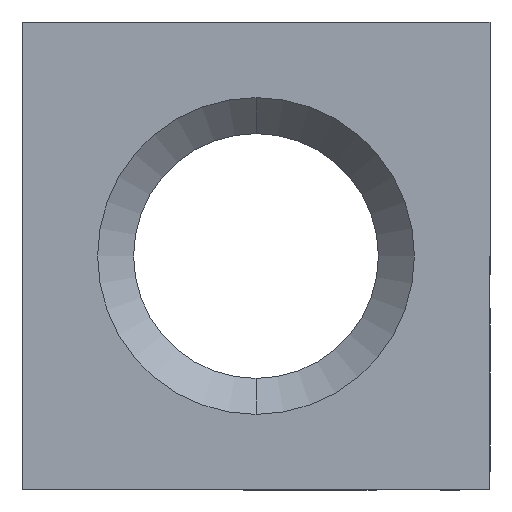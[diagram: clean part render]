
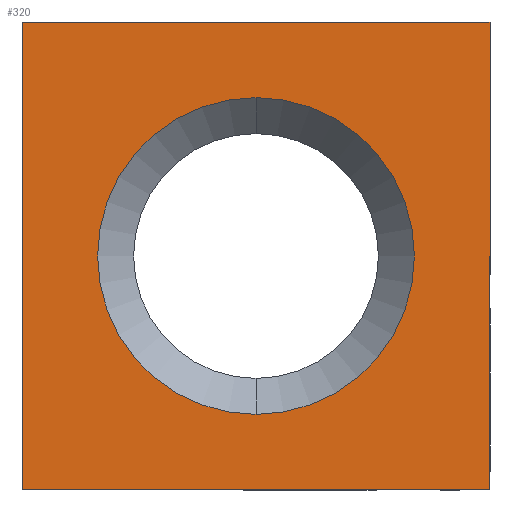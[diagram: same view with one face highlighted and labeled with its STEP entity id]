
A CAD part, front view. The second image highlights one B-rep face of the part: STEP entity #320.
In plain terms, the highlighted planar face has unit normal (0, -1, 0).
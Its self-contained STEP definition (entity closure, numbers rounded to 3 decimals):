
#6 = CARTESIAN_POINT ( 'NONE',  ( -6.5, 0., -6.5 ) ) ;
#15 = FACE_BOUND ( 'NONE', #437, .T. ) ;
#22 = DIRECTION ( 'NONE',  ( 1., 0., 0. ) ) ;
#29 = AXIS2_PLACEMENT_3D ( 'NONE', #561, #210, #203 ) ;
#33 = EDGE_CURVE ( 'NONE', #458, #522, #369, .T. ) ;
#47 = DIRECTION ( 'NONE',  ( 0., 0., -1. ) ) ;
#55 = CARTESIAN_POINT ( 'NONE',  ( -6.5, 0., 6.5 ) ) ;
#58 = AXIS2_PLACEMENT_3D ( 'NONE', #219, #269, #127 ) ;
#67 = VERTEX_POINT ( 'NONE', #6 ) ;
#73 = EDGE_CURVE ( 'NONE', #67, #131, #354, .T. ) ;
#74 = CARTESIAN_POINT ( 'NONE',  ( 6.5, 0., -6.5 ) ) ;
#87 = EDGE_CURVE ( 'NONE', #195, #67, #166, .T. ) ;
#89 = ORIENTED_EDGE ( 'NONE', *, *, #87, .F. ) ;
#99 = CARTESIAN_POINT ( 'NONE',  ( -6.5, 0., 6.5 ) ) ;
#101 = CARTESIAN_POINT ( 'NONE',  ( 0., 0., 4.4 ) ) ;
#116 = EDGE_CURVE ( 'NONE', #131, #403, #184, .T. ) ;
#121 = ORIENTED_EDGE ( 'NONE', *, *, #116, .F. ) ;
#122 = CARTESIAN_POINT ( 'NONE',  ( 6.5, 0., 6.5 ) ) ;
#127 = DIRECTION ( 'NONE',  ( 0., 0., -1. ) ) ;
#131 = VERTEX_POINT ( 'NONE', #492 ) ;
#156 = VECTOR ( 'NONE', #537, 1000. ) ;
#166 = LINE ( 'NONE', #445, #156 ) ;
#168 = PLANE ( 'NONE',  #549 ) ;
#169 = CARTESIAN_POINT ( 'NONE',  ( -6.5, 0., -6.5 ) ) ;
#179 = CARTESIAN_POINT ( 'NONE',  ( 0., 0., -4.4 ) ) ;
#184 = LINE ( 'NONE', #99, #230 ) ;
#195 = VERTEX_POINT ( 'NONE', #74 ) ;
#203 = DIRECTION ( 'NONE',  ( 0., 0., -1. ) ) ;
#207 = VECTOR ( 'NONE', #389, 1000. ) ;
#210 = DIRECTION ( 'NONE',  ( 0., 1., 0. ) ) ;
#219 = CARTESIAN_POINT ( 'NONE',  ( 0., 0., 0. ) ) ;
#230 = VECTOR ( 'NONE', #22, 1000. ) ;
#251 = EDGE_LOOP ( 'NONE', ( #333, #89, #424, #121 ) ) ;
#261 = ORIENTED_EDGE ( 'NONE', *, *, #33, .T. ) ;
#269 = DIRECTION ( 'NONE',  ( 0., 1., 0. ) ) ;
#273 = DIRECTION ( 'NONE',  ( 0., 0., 1. ) ) ;
#295 = EDGE_CURVE ( 'NONE', #403, #195, #412, .T. ) ;
#307 = VECTOR ( 'NONE', #273, 1000. ) ;
#320 = ADVANCED_FACE ( 'NONE', ( #15, #382 ), #168, .T. ) ;
#333 = ORIENTED_EDGE ( 'NONE', *, *, #73, .F. ) ;
#335 = EDGE_CURVE ( 'NONE', #522, #458, #552, .T. ) ;
#351 = CARTESIAN_POINT ( 'NONE',  ( 6.5, 0., 6.5 ) ) ;
#354 = LINE ( 'NONE', #55, #307 ) ;
#369 = CIRCLE ( 'NONE', #58, 4.4 ) ;
#382 = FACE_OUTER_BOUND ( 'NONE', #251, .T. ) ;
#389 = DIRECTION ( 'NONE',  ( 0., 0., -1. ) ) ;
#393 = DIRECTION ( 'NONE',  ( 0., -1., 0. ) ) ;
#403 = VERTEX_POINT ( 'NONE', #122 ) ;
#412 = LINE ( 'NONE', #351, #207 ) ;
#424 = ORIENTED_EDGE ( 'NONE', *, *, #295, .F. ) ;
#437 = EDGE_LOOP ( 'NONE', ( #261, #558 ) ) ;
#445 = CARTESIAN_POINT ( 'NONE',  ( -6.5, 0., -6.5 ) ) ;
#458 = VERTEX_POINT ( 'NONE', #179 ) ;
#492 = CARTESIAN_POINT ( 'NONE',  ( -6.5, 0., 6.5 ) ) ;
#522 = VERTEX_POINT ( 'NONE', #101 ) ;
#537 = DIRECTION ( 'NONE',  ( -1., 0., 0. ) ) ;
#549 = AXIS2_PLACEMENT_3D ( 'NONE', #169, #393, #47 ) ;
#552 = CIRCLE ( 'NONE', #29, 4.4 ) ;
#558 = ORIENTED_EDGE ( 'NONE', *, *, #335, .T. ) ;
#561 = CARTESIAN_POINT ( 'NONE',  ( 0., 0., 0. ) ) ;
